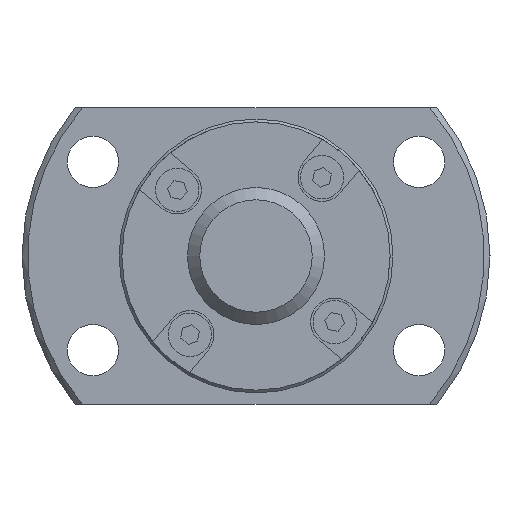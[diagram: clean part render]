
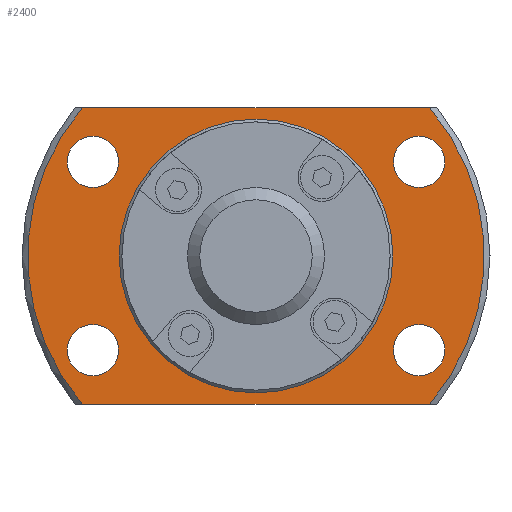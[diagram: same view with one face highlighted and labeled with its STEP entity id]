
A CAD part, left-side view. The second image highlights one B-rep face of the part: STEP entity #2400.
In plain terms, the highlighted planar face has unit normal (-1, 0, 0).
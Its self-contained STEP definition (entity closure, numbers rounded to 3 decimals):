
#109=LINE('',#3697,#335);
#110=LINE('',#3701,#336);
#335=VECTOR('',#2974,1000.);
#336=VECTOR('',#2977,1000.);
#643=ORIENTED_EDGE('',*,*,#1260,.F.);
#644=ORIENTED_EDGE('',*,*,#1261,.F.);
#645=ORIENTED_EDGE('',*,*,#1262,.F.);
#646=ORIENTED_EDGE('',*,*,#1263,.F.);
#647=ORIENTED_EDGE('',*,*,#1216,.F.);
#648=ORIENTED_EDGE('',*,*,#1264,.T.);
#649=ORIENTED_EDGE('',*,*,#1265,.F.);
#650=ORIENTED_EDGE('',*,*,#1266,.T.);
#651=ORIENTED_EDGE('',*,*,#1259,.T.);
#1216=EDGE_CURVE('',#1537,#1538,#1765,.T.);
#1259=EDGE_CURVE('',#1575,#1575,#1787,.T.);
#1260=EDGE_CURVE('',#1576,#1576,#1788,.F.);
#1261=EDGE_CURVE('',#1577,#1577,#1789,.F.);
#1262=EDGE_CURVE('',#1578,#1578,#1790,.F.);
#1263=EDGE_CURVE('',#1579,#1579,#1791,.F.);
#1264=EDGE_CURVE('',#1537,#1580,#109,.T.);
#1265=EDGE_CURVE('',#1581,#1580,#1792,.T.);
#1266=EDGE_CURVE('',#1581,#1538,#110,.T.);
#1537=VERTEX_POINT('',#3587);
#1538=VERTEX_POINT('',#3589);
#1575=VERTEX_POINT('',#3687);
#1576=VERTEX_POINT('',#3690);
#1577=VERTEX_POINT('',#3692);
#1578=VERTEX_POINT('',#3694);
#1579=VERTEX_POINT('',#3696);
#1580=VERTEX_POINT('',#3698);
#1581=VERTEX_POINT('',#3700);
#1765=CIRCLE('',#2586,20.);
#1787=CIRCLE('',#2617,11.75);
#1788=CIRCLE('',#2619,2.25);
#1789=CIRCLE('',#2620,2.25);
#1790=CIRCLE('',#2621,2.25);
#1791=CIRCLE('',#2622,2.25);
#1792=CIRCLE('',#2623,20.);
#1887=EDGE_LOOP('',(#643));
#1888=EDGE_LOOP('',(#644));
#1889=EDGE_LOOP('',(#645));
#1890=EDGE_LOOP('',(#646));
#1891=EDGE_LOOP('',(#647,#648,#649,#650));
#1892=EDGE_LOOP('',(#651));
#2099=FACE_BOUND('',#1887,.T.);
#2100=FACE_BOUND('',#1888,.T.);
#2101=FACE_BOUND('',#1889,.T.);
#2102=FACE_BOUND('',#1890,.T.);
#2103=FACE_BOUND('',#1891,.T.);
#2104=FACE_BOUND('',#1892,.T.);
#2277=PLANE('',#2618);
#2400=ADVANCED_FACE('',(#2099,#2100,#2101,#2102,#2103,#2104),#2277,.F.);
#2586=AXIS2_PLACEMENT_3D('',#3588,#2882,#2883);
#2617=AXIS2_PLACEMENT_3D('',#3686,#2962,#2963);
#2618=AXIS2_PLACEMENT_3D('',#3688,#2964,#2965);
#2619=AXIS2_PLACEMENT_3D('',#3689,#2966,#2967);
#2620=AXIS2_PLACEMENT_3D('',#3691,#2968,#2969);
#2621=AXIS2_PLACEMENT_3D('',#3693,#2970,#2971);
#2622=AXIS2_PLACEMENT_3D('',#3695,#2972,#2973);
#2623=AXIS2_PLACEMENT_3D('',#3699,#2975,#2976);
#2882=DIRECTION('',(1.,0.,0.));
#2883=DIRECTION('',(0.,0.,-1.));
#2962=DIRECTION('',(1.,0.,0.));
#2963=DIRECTION('',(0.,0.,-1.));
#2964=DIRECTION('',(1.,0.,0.));
#2965=DIRECTION('',(0.,0.,-1.));
#2966=DIRECTION('',(1.,0.,0.));
#2967=DIRECTION('',(0.,0.,-1.));
#2968=DIRECTION('',(1.,0.,0.));
#2969=DIRECTION('',(0.,0.,-1.));
#2970=DIRECTION('',(1.,0.,0.));
#2971=DIRECTION('',(0.,0.,-1.));
#2972=DIRECTION('',(1.,0.,0.));
#2973=DIRECTION('',(0.,0.,-1.));
#2974=DIRECTION('',(0.,-1.,0.));
#2975=DIRECTION('',(1.,0.,0.));
#2976=DIRECTION('',(0.,0.,-1.));
#2977=DIRECTION('',(0.,1.,0.));
#3587=CARTESIAN_POINT('',(14.5,15.199,-13.));
#3588=CARTESIAN_POINT('',(14.5,0.,0.));
#3589=CARTESIAN_POINT('',(14.5,15.199,13.));
#3686=CARTESIAN_POINT('',(14.5,0.,0.));
#3687=CARTESIAN_POINT('',(14.5,0.,-11.75));
#3688=CARTESIAN_POINT('',(14.5,11.75,0.));
#3689=CARTESIAN_POINT('',(14.5,-14.289,-8.25));
#3690=CARTESIAN_POINT('',(14.5,-14.289,-10.5));
#3691=CARTESIAN_POINT('',(14.5,-14.289,8.25));
#3692=CARTESIAN_POINT('',(14.5,-14.289,6.));
#3693=CARTESIAN_POINT('',(14.5,14.289,-8.25));
#3694=CARTESIAN_POINT('',(14.5,14.289,-10.5));
#3695=CARTESIAN_POINT('',(14.5,14.289,8.25));
#3696=CARTESIAN_POINT('',(14.5,14.289,6.));
#3697=CARTESIAN_POINT('',(14.5,11.75,-13.));
#3698=CARTESIAN_POINT('',(14.5,-15.199,-13.));
#3699=CARTESIAN_POINT('',(14.5,0.,0.));
#3700=CARTESIAN_POINT('',(14.5,-15.199,13.));
#3701=CARTESIAN_POINT('',(14.5,11.75,13.));
